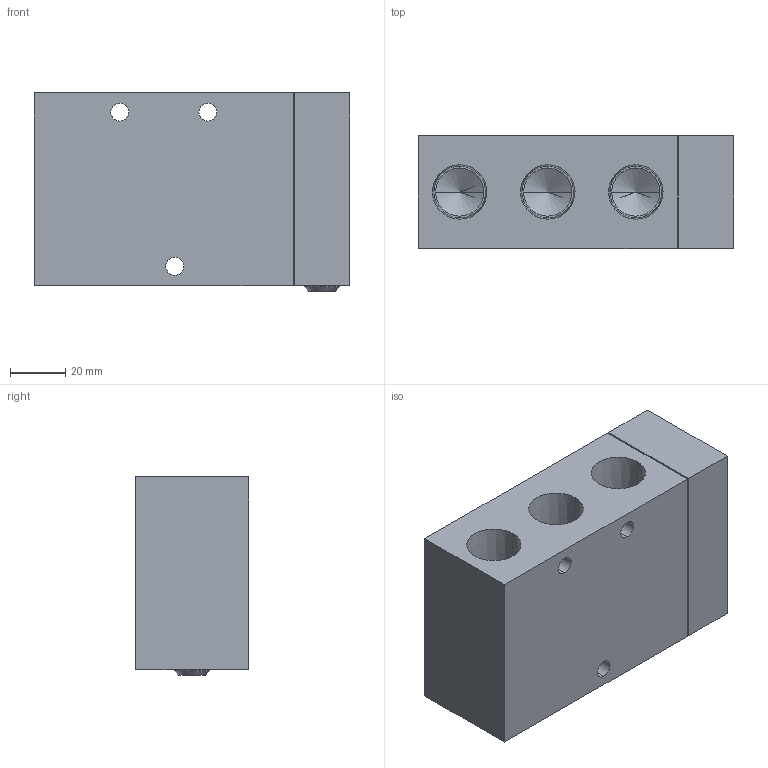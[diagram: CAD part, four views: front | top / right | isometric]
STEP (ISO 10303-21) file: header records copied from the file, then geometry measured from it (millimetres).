
FILE_DESCRIPTION (( 'STEP AP203' ), '1' );
FILE_NAME ('VS2410-04.STEP', '2016-01-13T18:39:52', ( '' ), ( '' ), 'SwSTEP 2.0', 'SolidWorks 2014', '' );
FILE_SCHEMA (( 'CONFIG_CONTROL_DESIGN' ));
Length unit declared in the file: millimetre
Products named in the file (7): M4; VS2410-3; 止付1-4; VS2410-MARK; VS2410-1=04; VS2410-04; VS2410-2
Assembly tree (9 placements, depth 2):
  VS2410-04
    VS2410-2
    VS2410-3
    VS2410-MARK
    M4  x4
    止付1-4
    VS2410-1=04
Bounding box: 114.5 x 41.15 x 72 mm (x, y, z)
Volume: 286159.5 mm3; surface area: 56000.1 mm2
Topology: 18 solids, 18 shells, 538 faces, 1342 edges, 857 vertices
Faces by surface type: plane 309, cone 70, cylinder 67, bspline 66, torus 16, sphere 10
Entity records: 16785 total; most frequent: CARTESIAN_POINT 5910, ORIENTED_EDGE 2136, DIRECTION 1894, EDGE_CURVE 1068, VECTOR 726, LINE 726, VERTEX_POINT 704, AXIS2_PLACEMENT_3D 584
